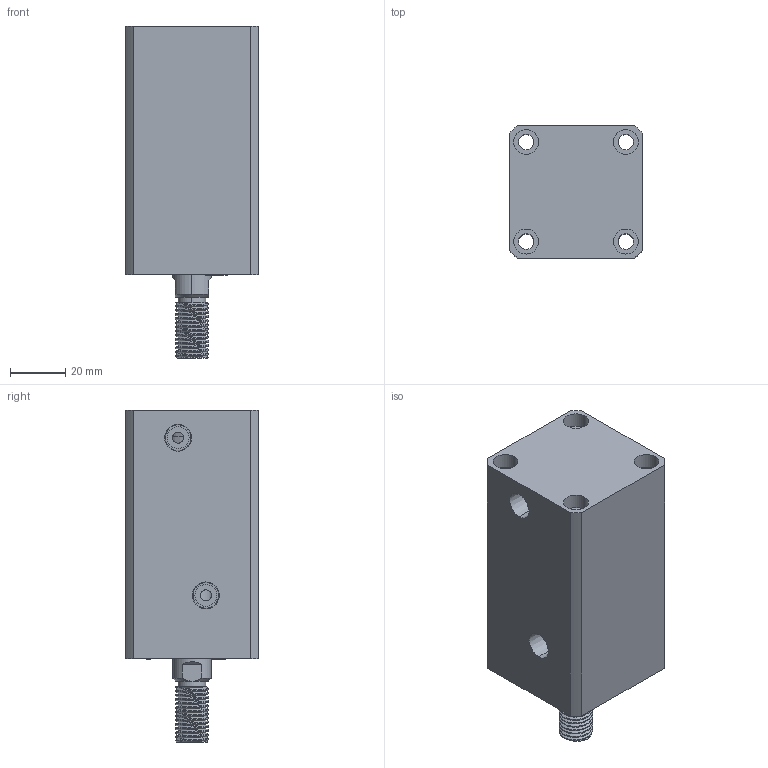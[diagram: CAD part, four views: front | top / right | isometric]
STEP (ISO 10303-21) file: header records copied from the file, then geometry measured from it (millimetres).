
FILE_DESCRIPTION (( 'STEP AP214' ), '1' );
FILE_NAME ('chtb-sd25x45w_asm.STEP', '2018-05-22T09:28:17', ( 'Windows' ), ( 'Microsoft' ), 'SwSTEP 2.0', 'SolidWorks 2015', '' );
FILE_SCHEMA (( 'AUTOMOTIVE_DESIGN' ));
Length unit declared in the file: millimetre
Products named in the file (4): CHTB-SD25X45WHSG; CHTB-SD25X45NBT; CHTB-25QG; chtb-sd25x45w_asm
Assembly tree (3 placements, depth 2):
  chtb-sd25x45w_asm
    CHTB-25QG
    CHTB-SD25X45NBT
    CHTB-SD25X45WHSG
Bounding box: 48 x 48 x 120 mm (x, y, z)
Volume: 181461.8 mm3; surface area: 47354.1 mm2
Topology: 3 solids, 3 shells, 178 faces, 474 edges, 323 vertices
Faces by surface type: cylinder 113, plane 39, cone 14, bspline 12
Entity records: 10610 total; most frequent: CARTESIAN_POINT 6273, ORIENTED_EDGE 940, DIRECTION 778, EDGE_CURVE 470, VERTEX_POINT 323, AXIS2_PLACEMENT_3D 317, EDGE_LOOP 217, ADVANCED_FACE 178
